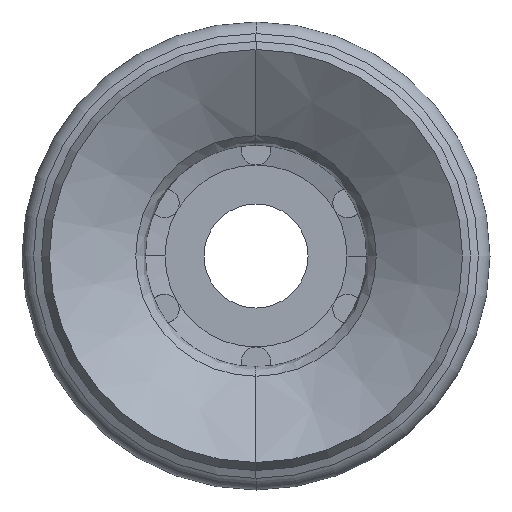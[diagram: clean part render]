
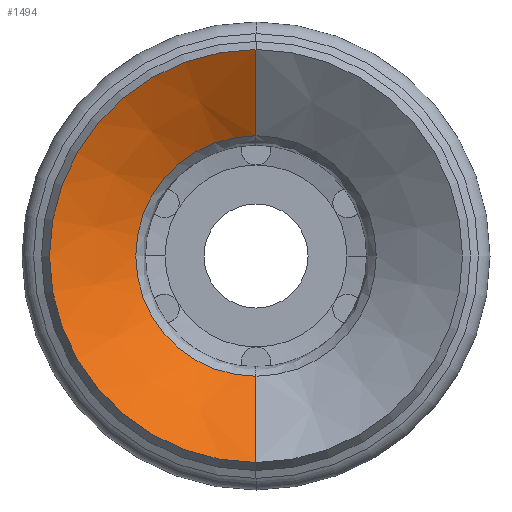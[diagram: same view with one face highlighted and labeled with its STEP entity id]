
A CAD part, front view. The second image highlights one B-rep face of the part: STEP entity #1494.
In plain terms, the highlighted conical face has half-angle 56.427 degrees and reference radius 9.251 mm.
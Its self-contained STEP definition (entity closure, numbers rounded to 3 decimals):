
#98 = DIRECTION ( 'NONE',  ( 0., -1., 0. ) ) ;
#109 = VERTEX_POINT ( 'NONE', #998 ) ;
#134 = CARTESIAN_POINT ( 'NONE',  ( 0., -23.1, 9.251 ) ) ;
#194 = DIRECTION ( 'NONE',  ( 0., 1., 0. ) ) ;
#204 = CONICAL_SURFACE ( 'NONE', #1267, 9.251, 0.985 ) ;
#206 = CARTESIAN_POINT ( 'NONE',  ( 0., -23.1, 9.251 ) ) ;
#257 = CARTESIAN_POINT ( 'NONE',  ( 0., -23.1, 0. ) ) ;
#258 = ORIENTED_EDGE ( 'NONE', *, *, #866, .T. ) ;
#353 = CIRCLE ( 'NONE', #901, 15.881 ) ;
#367 = AXIS2_PLACEMENT_3D ( 'NONE', #1669, #194, #627 ) ;
#443 = ORIENTED_EDGE ( 'NONE', *, *, #742, .T. ) ;
#496 = CARTESIAN_POINT ( 'NONE',  ( 0., -27.5, -15.881 ) ) ;
#584 = DIRECTION ( 'NONE',  ( 0., -1., 0. ) ) ;
#621 = DIRECTION ( 'NONE',  ( 0., -0.553, -0.833 ) ) ;
#627 = DIRECTION ( 'NONE',  ( 0., 0., -1. ) ) ;
#737 = DIRECTION ( 'NONE',  ( 0., -0.553, 0.833 ) ) ;
#738 = CARTESIAN_POINT ( 'NONE',  ( 0., -27.5, 0. ) ) ;
#742 = EDGE_CURVE ( 'NONE', #1579, #109, #1428, .T. ) ;
#747 = VECTOR ( 'NONE', #621, 1000. ) ;
#816 = FACE_OUTER_BOUND ( 'NONE', #1443, .T. ) ;
#866 = EDGE_CURVE ( 'NONE', #1247, #1579, #942, .T. ) ;
#901 = AXIS2_PLACEMENT_3D ( 'NONE', #738, #584, #1453 ) ;
#942 = CIRCLE ( 'NONE', #367, 9.251 ) ;
#980 = DIRECTION ( 'NONE',  ( 0., 0., -1. ) ) ;
#998 = CARTESIAN_POINT ( 'NONE',  ( 0., -27.5, 15.881 ) ) ;
#1158 = EDGE_CURVE ( 'NONE', #109, #1426, #353, .T. ) ;
#1247 = VERTEX_POINT ( 'NONE', #1423 ) ;
#1267 = AXIS2_PLACEMENT_3D ( 'NONE', #257, #98, #980 ) ;
#1318 = ORIENTED_EDGE ( 'NONE', *, *, #1636, .F. ) ;
#1368 = CARTESIAN_POINT ( 'NONE',  ( 0., -23.1, -9.251 ) ) ;
#1423 = CARTESIAN_POINT ( 'NONE',  ( 0., -23.1, -9.251 ) ) ;
#1426 = VERTEX_POINT ( 'NONE', #496 ) ;
#1428 = LINE ( 'NONE', #134, #1435 ) ;
#1435 = VECTOR ( 'NONE', #737, 1000. ) ;
#1443 = EDGE_LOOP ( 'NONE', ( #258, #443, #1728, #1318 ) ) ;
#1453 = DIRECTION ( 'NONE',  ( -1., 0., 0. ) ) ;
#1494 = ADVANCED_FACE ( 'NONE', ( #816 ), #204, .F. ) ;
#1579 = VERTEX_POINT ( 'NONE', #206 ) ;
#1632 = LINE ( 'NONE', #1368, #747 ) ;
#1636 = EDGE_CURVE ( 'NONE', #1247, #1426, #1632, .T. ) ;
#1669 = CARTESIAN_POINT ( 'NONE',  ( 0., -23.1, 0. ) ) ;
#1728 = ORIENTED_EDGE ( 'NONE', *, *, #1158, .T. ) ;
